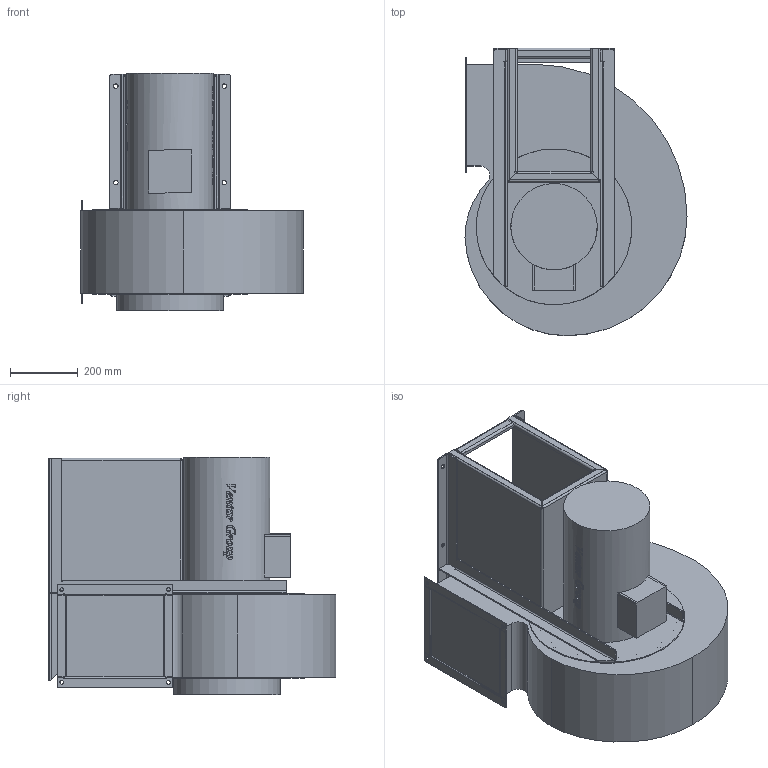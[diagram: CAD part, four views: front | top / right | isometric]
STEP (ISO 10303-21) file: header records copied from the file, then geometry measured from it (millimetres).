
FILE_DESCRIPTION(/* description */ (''),/* implementation_level */ '2;1');
FILE_NAME(/* name */ 'T:\BAZA\BAZA\Modele uproszczone\GMT\GMT_750_1100T_LG270_43551880\GMT_750_1100T_LG270_43551880.stp',/* time_stamp */ '2016-08-18T14:05:14+02:00',/* author */ ('tomaszm'),/* organization */ (''),/* preprocessor_version */ 'ST-DEVELOPER v16.5',/* originating_system */ 'Autodesk Inventor 2017',/* authorisation */ '');
FILE_SCHEMA (('AUTOMOTIVE_DESIGN { 1 0 10303 214 3 1 1 }'));
Length unit declared in the file: centimetre
Products named in the file (1): GMT-750-1100
Bounding box: 655.7 x 848.2 x 702.5 mm (x, y, z)
Volume: 129240842.1 mm3; surface area: 3442589.7 mm2
Topology: 1 solids, 10 shells, 723 faces, 1984 edges, 1298 vertices
Faces by surface type: plane 365, bspline 259, cylinder 99
Full cylindrical faces by diameter (mm): 9.2 x8, 11.1 x4, 13 x6, 254.8 x2, 312 x1, 315 x1, 414 x1, 460 x2
Entity records: 25730 total; most frequent: CARTESIAN_POINT 8673, ORIENTED_EDGE 3920, DIRECTION 2669, EDGE_CURVE 1960, VERTEX_POINT 1297, LINE 1119, VECTOR 1119, EDGE_LOOP 805
